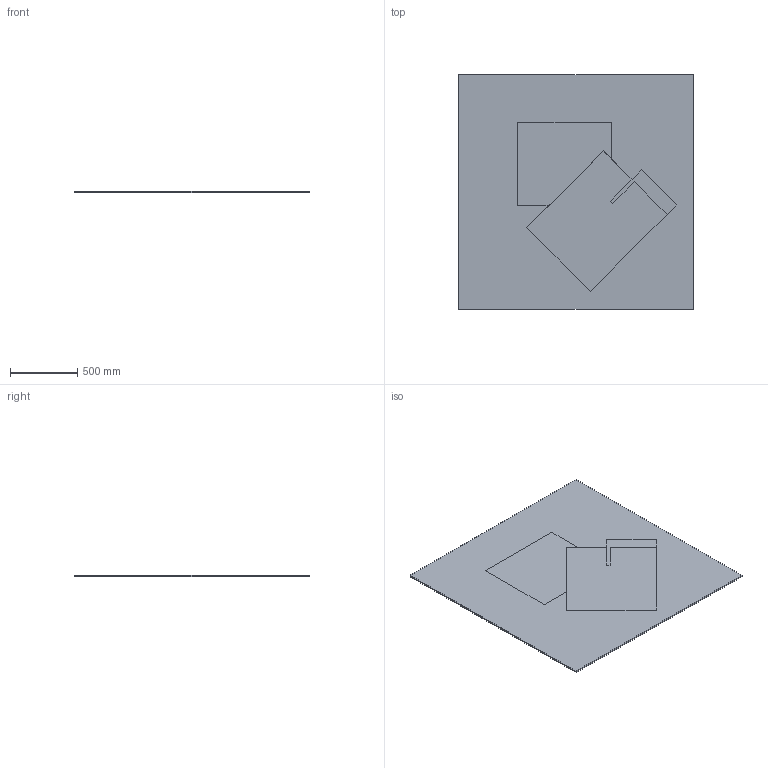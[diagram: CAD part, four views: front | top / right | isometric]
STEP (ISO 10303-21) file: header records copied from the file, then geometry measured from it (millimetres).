
FILE_DESCRIPTION(/* description */ (''),/* implementation_level */ '2;1');
FILE_NAME(/* name */ 'Castellar-Rug_175x175_3D_20231017',/* time_stamp */ '2023-10-17T11:53:10+02:00',/* author */ (''),/* organization */ (''),/* preprocessor_version */ 'ST-DEVELOPER v16.5',/* originating_system */ 'Rhino 7.34',/* authorisation */ '');
FILE_SCHEMA (('CONFIG_CONTROL_DESIGN'));
Length unit declared in the file: millimetre
Products named in the file (1): Document
Bounding box: 1750 x 1750 x 12 mm (x, y, z)
Volume: 36750000 mm3; surface area: 6348607.1 mm2
Topology: 4 solids, 4 shells, 44 faces, 108 edges, 72 vertices
Faces by surface type: plane 44
Entity records: 1204 total; most frequent: CARTESIAN_POINT 334, ORIENTED_EDGE 216, EDGE_CURVE 108, B_SPLINE_CURVE_WITH_KNOTS 108, VERTEX_POINT 72, DIRECTION 48, EDGE_LOOP 46, AXIS2_PLACEMENT_3D 46
